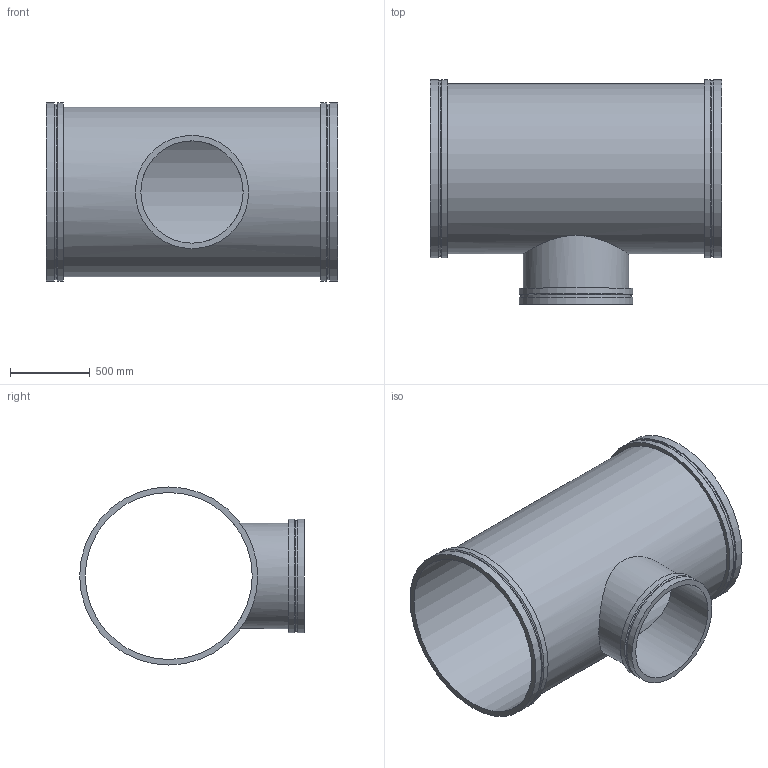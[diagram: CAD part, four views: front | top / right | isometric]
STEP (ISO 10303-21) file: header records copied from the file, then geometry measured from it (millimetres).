
FILE_DESCRIPTION(/* description */ ('VIC REDUCING TEE No W025 VR','CAx-IF Rec.Pracs.---Representation and Presentation of Product Manufacturing Information (PMI)---4.0---2014-10-13'),/* implementation_level */ '2;1');
FILE_NAME(/* name */ 'C:\Users\kkamble\AppData\Roaming\Autodesk\ApplicationPlugins\Back Up\Victaulic_Vic-Ring_Tee Reducing_No W25 VR (AGR)\Victaulic_Vic-Ring_Tee Reducing_No W25 VR (AGR)_42.0x26.0 (1050x650).stp',/* time_stamp */ '2020-09-10T11:56:04+05:00',/* author */ ('mchristi'),/* organization */ ('Victaulic'),/* preprocessor_version */ 'ST-DEVELOPER v17.2',/* originating_system */ 'Autodesk Inventor 2019',/* authorisation */ '');
FILE_SCHEMA (('AP242_MANAGED_MODEL_BASED_3D_ENGINEERING_MIM_LF { 1 0 10303 442 1 1 4 }'));
Length unit declared in the file: inch
Products named in the file (1): W25 VR-42.0x26.0
Bounding box: 1828.8 x 1409.7 x 1117.6 mm (x, y, z)
Volume: 85025227.3 mm3; surface area: 13679731.1 mm2
Topology: 1 solids, 1 shells, 25 faces, 68 edges, 52 vertices
Faces by surface type: cylinder 13, plane 9, cone 3
Full cylindrical faces by diameter (mm): 641.35 x1, 660.4 x1, 696.722 x1, 711.2 x2, 1047.75 x1, 1066.8 x1, 1101.725 x2, 1117.6 x4
Entity records: 1267 total; most frequent: CARTESIAN_POINT 423, DIRECTION 190, ORIENTED_EDGE 136, AXIS2_PLACEMENT_3D 87, EDGE_CURVE 68, VERTEX_POINT 52, CIRCLE 48, EDGE_LOOP 36
